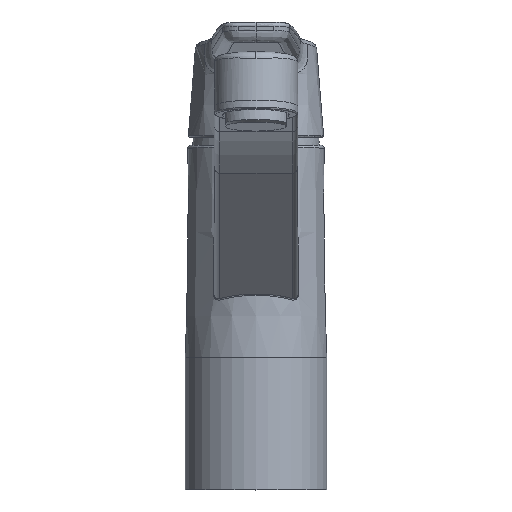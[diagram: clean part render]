
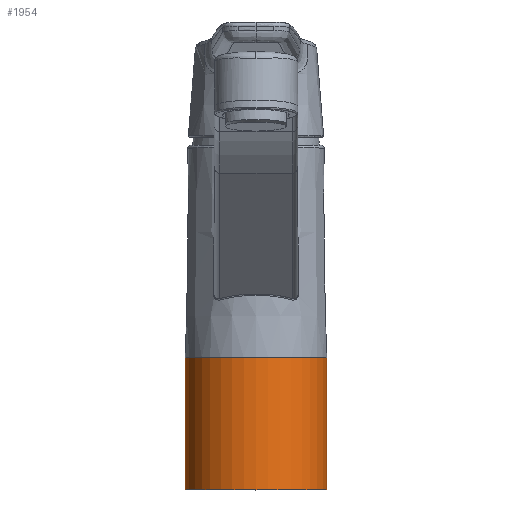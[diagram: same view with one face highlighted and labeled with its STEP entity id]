
A CAD part, top view. The second image highlights one B-rep face of the part: STEP entity #1954.
In plain terms, the highlighted cylindrical face has radius 25.5 mm (diameter 51 mm), a full revolution.
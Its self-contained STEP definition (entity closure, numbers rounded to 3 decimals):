
#125 = CYLINDRICAL_SURFACE ( 'NONE', #12582, 25.5 ) ;
#261 = FACE_OUTER_BOUND ( 'NONE', #3786, .T. ) ;
#438 = FACE_OUTER_BOUND ( 'NONE', #4733, .T. ) ;
#491 = CARTESIAN_POINT ( 'NONE',  ( 0., 0., -25.5 ) ) ;
#1366 = ORIENTED_EDGE ( 'NONE', *, *, #9166, .T. ) ;
#1377 = ORIENTED_EDGE ( 'NONE', *, *, #5459, .T. ) ;
#1954 = ADVANCED_FACE ( 'NONE', ( #438, #261 ), #125, .T. ) ;
#3786 = EDGE_LOOP ( 'NONE', ( #1377 ) ) ;
#4101 = DIRECTION ( 'NONE',  ( 0., -1., 0. ) ) ;
#4733 = EDGE_LOOP ( 'NONE', ( #1366 ) ) ;
#4810 = DIRECTION ( 'NONE',  ( 0., 1., 0. ) ) ;
#5459 = EDGE_CURVE ( 'NONE', #6303, #6303, #10692, .T. ) ;
#6142 = VERTEX_POINT ( 'NONE', #8883 ) ;
#6303 = VERTEX_POINT ( 'NONE', #491 ) ;
#8648 = AXIS2_PLACEMENT_3D ( 'NONE', #10871, #4810, #11829 ) ;
#8746 = CIRCLE ( 'NONE', #9071, 25.5 ) ;
#8883 = CARTESIAN_POINT ( 'NONE',  ( 25.5, 47.5, 0. ) ) ;
#9071 = AXIS2_PLACEMENT_3D ( 'NONE', #10224, #4101, #11173 ) ;
#9166 = EDGE_CURVE ( 'NONE', #6142, #6142, #8746, .T. ) ;
#9678 = DIRECTION ( 'NONE',  ( 0., 0., -1. ) ) ;
#10224 = CARTESIAN_POINT ( 'NONE',  ( 0., 47.5, 0. ) ) ;
#10645 = CARTESIAN_POINT ( 'NONE',  ( 0., 23.4, 0. ) ) ;
#10692 = CIRCLE ( 'NONE', #8648, 25.5 ) ;
#10871 = CARTESIAN_POINT ( 'NONE',  ( 0., 0., 0. ) ) ;
#11173 = DIRECTION ( 'NONE',  ( 1., 0., 0. ) ) ;
#11596 = DIRECTION ( 'NONE',  ( 0., 1., 0. ) ) ;
#11829 = DIRECTION ( 'NONE',  ( 0., 0., -1. ) ) ;
#12582 = AXIS2_PLACEMENT_3D ( 'NONE', #10645, #11596, #9678 ) ;
